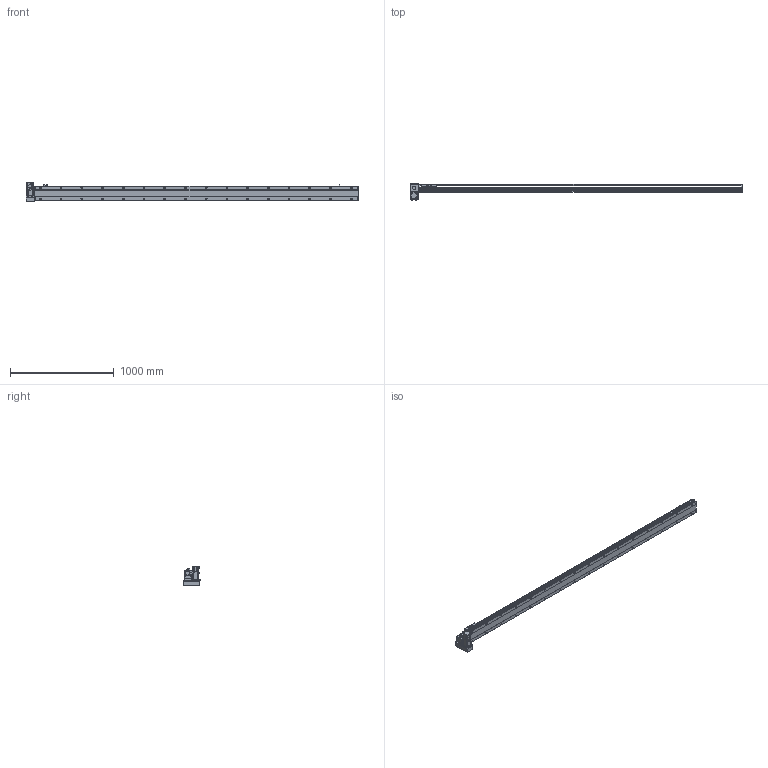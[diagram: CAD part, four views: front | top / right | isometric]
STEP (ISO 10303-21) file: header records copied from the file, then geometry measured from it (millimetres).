
FILE_DESCRIPTION(/* description */ ('STEP AP214'),/* implementation_level */ '2;1');
FILE_NAME(/* name */ 'PBS140-P40-S2850-LD-T40-C1-N(0)',/* time_stamp */ '2022-06-06T07:58:56+02:00',/* author */ ('License CC BY-ND 4.0'),/* organization */ ('CADENAS'),/* preprocessor_version */ 'ST-DEVELOPER v18.102',/* originating_system */ 'PARTsolutions',/* authorisation */ ' ');
FILE_SCHEMA (('AUTOMOTIVE_DESIGN {1 0 10303 214 3 1 1}'));
Length unit declared in the file: millimetre
Products named in the file (7): PBS140-P40-S2850-LD-T40-C1-N(0); PBS140_sensor; PBS140_plant; PBS140_sliser; T40-p1; PBS140T-LD_motors; PBS140-S2850()_body
Assembly tree (8 placements, depth 2):
  PBS140-P40-S2850-LD-T40-C1-N(0)
    PBS140_sensor  x3
    PBS140_plant
    PBS140_sliser
    T40-p1
    PBS140T-LD_motors
    PBS140-S2850()_body
Bounding box: 3204 x 162 x 189.7 mm (x, y, z)
Volume: 14268995.1 mm3; surface area: 2422213.8 mm2
Topology: 8 solids, 8 shells, 1203 faces, 3156 edges, 2061 vertices
Faces by surface type: plane 740, cylinder 395, cone 58, sphere 8, torus 2
Full cylindrical faces by diameter (mm): 3.242 x4, 4 x2, 4.134 x4, 4.4 x8, 4.5 x2, 4.8 x4, 4.917 x40, 5.5 x7, 6 x2, 7 x34, 7.5 x8, 8 x12, 8.5 x4, 10.5 x32, 14 x1, 30 x2, 50 x2
Entity records: 34309 total; most frequent: CARTESIAN_POINT 6561, DIRECTION 5757, ORIENTED_EDGE 5392, EDGE_CURVE 2696, AXIS2_PLACEMENT_3D 2047, VERTEX_POINT 1893, LINE 1663, VECTOR 1663
